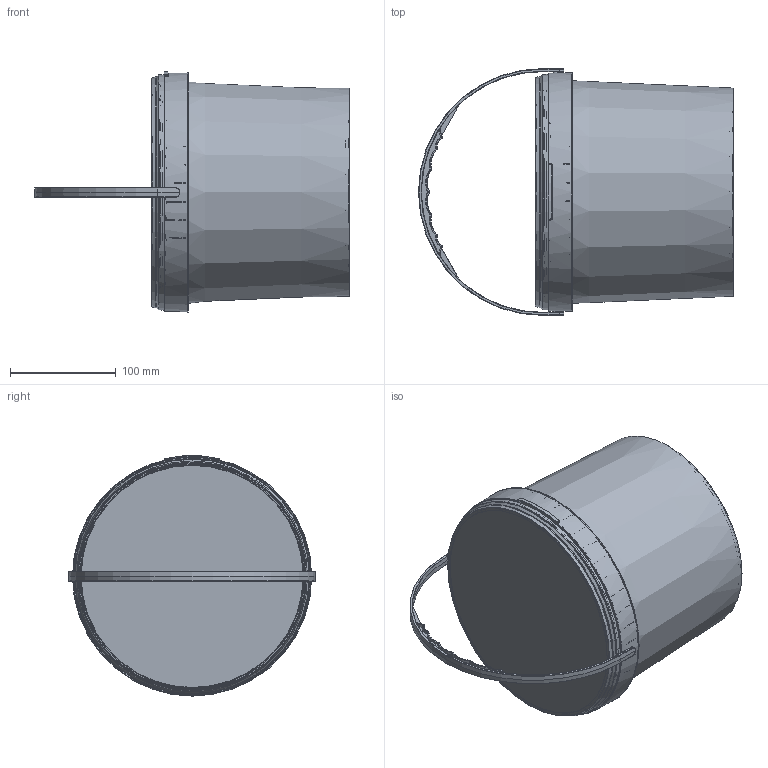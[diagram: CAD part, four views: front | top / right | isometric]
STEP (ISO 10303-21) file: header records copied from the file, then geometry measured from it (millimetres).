
FILE_DESCRIPTION(('STEP AP203'), '1');
FILE_NAME('Âåäðî 5L Ñáîðêà', '', ('UNSPECIFIED'), ('UNSPECIFIED'), 'C3D Converter', 'C3D Toolkit', '');
FILE_SCHEMA(('CONFIG_CONTROL_DESIGN'));
Length unit declared in the file: millimetre
Products named in the file (4): 171.13-00-00СБ; 171.13-00-01; 171.13-00-03; 171.13-00-02
Assembly tree (3 placements, depth 2):
  171.13-00-00СБ
    171.13-00-01
    171.13-00-03
    171.13-00-02
Bounding box: 298.41 x 233.73 x 227.61 mm (x, y, z)
Volume: 794638.1 mm3; surface area: 542360.1 mm2
Topology: 39 solids, 39 shells, 2195 faces, 6018 edges, 3951 vertices
Faces by surface type: plane 1022, cylinder 828, cone 176, torus 98, extrusion 36, bspline 22, revolution 9, sphere 4
Full cylindrical faces by diameter (mm): 3.7 x2, 4 x2, 4.704 x2, 217.226 x1, 221.005 x1
Entity records: 82071 total; most frequent: CARTESIAN_POINT 26950, ORIENTED_EDGE 11864, DIRECTION 10902, EDGE_CURVE 5932, AXIS2_PLACEMENT_3D 3999, VERTEX_POINT 3945, VECTOR 2895, LINE 2859
